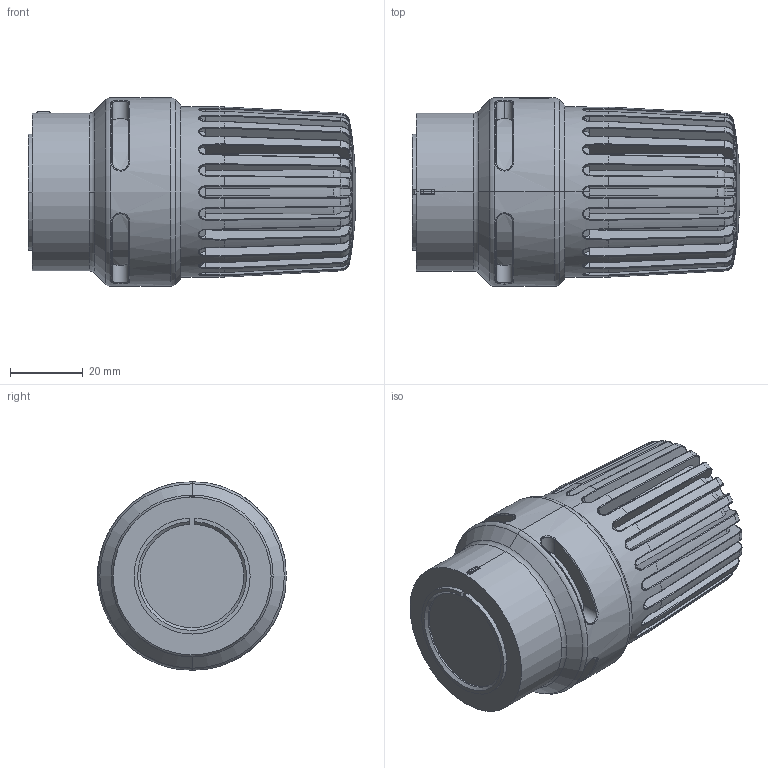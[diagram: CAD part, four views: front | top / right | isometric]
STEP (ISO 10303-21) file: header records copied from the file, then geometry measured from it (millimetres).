
FILE_DESCRIPTION (( 'STEP AP214' ), '1' );
FILE_NAME ('443007.STEP', '2021-07-07T12:26:18', ( '' ), ( '' ), 'SwSTEP 2.0', 'SolidWorks 2016', '' );
FILE_SCHEMA (( 'AUTOMOTIVE_DESIGN' ));
Length unit declared in the file: millimetre
Products named in the file (1): 443007
Bounding box: 90.34 x 52.05 x 52 mm (x, y, z)
Volume: 140359.4 mm3; surface area: 24065.5 mm2
Topology: 1 solids, 2 shells, 1488 faces, 4181 edges, 2715 vertices
Faces by surface type: bspline 760, plane 358, torus 156, cylinder 126, cone 86, sphere 2
Entity records: 78734 total; most frequent: CARTESIAN_POINT 32666, ORIENTED_EDGE 8362, EDGE_CURVE 4181, DIRECTION 3349, VERTEX_POINT 2715, B_SPLINE_CURVE_WITH_KNOTS 2550, EDGE_LOOP 1508, ADVANCED_FACE 1488
